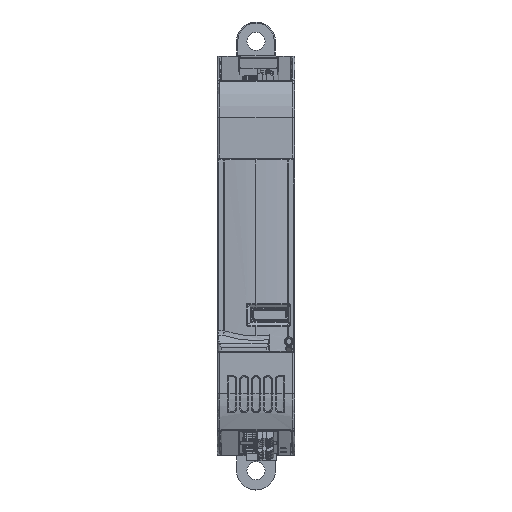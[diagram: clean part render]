
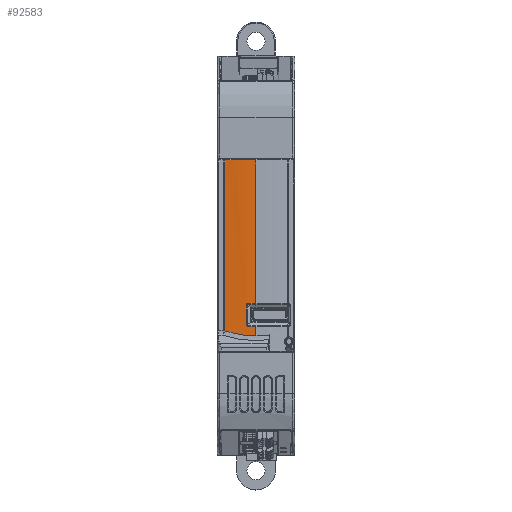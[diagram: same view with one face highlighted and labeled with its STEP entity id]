
A CAD part, top view. The second image highlights one B-rep face of the part: STEP entity #92583.
In plain terms, the highlighted cylindrical face has radius 71.119 mm (diameter 142.239 mm), a partial arc.
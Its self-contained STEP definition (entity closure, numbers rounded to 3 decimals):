
#575 = CARTESIAN_POINT ( 'NONE',  ( 1.726, -17.519, 64.468 ) ) ;
#770 = DIRECTION ( 'NONE',  ( 0., 1., 0. ) ) ;
#1697 = CARTESIAN_POINT ( 'NONE',  ( 9., -11.153, 64.841 ) ) ;
#3808 = EDGE_CURVE ( 'NONE', #57025, #21103, #43539, .T. ) ;
#5060 = CARTESIAN_POINT ( 'NONE',  ( 6.843, -16.288, 64.809 ) ) ;
#5437 = ORIENTED_EDGE ( 'NONE', *, *, #20947, .T. ) ;
#5795 = CARTESIAN_POINT ( 'NONE',  ( 6.817, -16.203, 64.808 ) ) ;
#7468 = CARTESIAN_POINT ( 'NONE',  ( 9., 22.25, -6.278 ) ) ;
#8052 = CIRCLE ( 'NONE', #87692, 71.119 ) ;
#10888 = CARTESIAN_POINT ( 'NONE',  ( 4.143, -18.326, 64.717 ) ) ;
#14928 = CARTESIAN_POINT ( 'NONE',  ( 6.812, -11.486, 64.808 ) ) ;
#15463 =( BOUNDED_CURVE ( )  B_SPLINE_CURVE ( 3, ( #575, #10888, #66640, #57053 ),
 .UNSPECIFIED., .F., .F. ) 
 B_SPLINE_CURVE_WITH_KNOTS ( ( 4, 4 ),
 ( 3.039, 3.142 ),
 .UNSPECIFIED. ) 
 CURVE ( )  GEOMETRIC_REPRESENTATION_ITEM ( )  RATIONAL_B_SPLINE_CURVE ( ( 1., 0.999, 0.999, 1. ) ) 
 REPRESENTATION_ITEM ( '' )  );
#18807 = VERTEX_POINT ( 'NONE', #46529 ) ;
#20055 = ORIENTED_EDGE ( 'NONE', *, *, #89101, .T. ) ;
#20589 = CYLINDRICAL_SURFACE ( 'NONE', #42220, 71.119 ) ;
#20947 = EDGE_CURVE ( 'NONE', #51225, #48520, #143936, .T. ) ;
#21049 = AXIS2_PLACEMENT_3D ( 'NONE', #79821, #137743, #45299 ) ;
#21103 = VERTEX_POINT ( 'NONE', #76123 ) ;
#21271 = LINE ( 'NONE', #121776, #129724 ) ;
#22159 = CARTESIAN_POINT ( 'NONE',  ( 7.138, -11.153, 64.817 ) ) ;
#27003 = CARTESIAN_POINT ( 'NONE',  ( 9., -11.153, -6.278 ) ) ;
#28524 = CARTESIAN_POINT ( 'NONE',  ( 6.965, -16.414, 64.812 ) ) ;
#30209 = DIRECTION ( 'NONE',  ( 0., 0., 1. ) ) ;
#34845 = VECTOR ( 'NONE', #770, 1000. ) ;
#37353 = CARTESIAN_POINT ( 'NONE',  ( 7.138, -16.447, 64.817 ) ) ;
#38371 = AXIS2_PLACEMENT_3D ( 'NONE', #27003, #93096, #93812 ) ;
#39492 = VECTOR ( 'NONE', #86576, 1000. ) ;
#39950 = ORIENTED_EDGE ( 'NONE', *, *, #71075, .T. ) ;
#41786 = FACE_OUTER_BOUND ( 'NONE', #44038, .T. ) ;
#42220 = AXIS2_PLACEMENT_3D ( 'NONE', #65311, #43972, #97635 ) ;
#43539 = LINE ( 'NONE', #104230, #131363 ) ;
#43972 = DIRECTION ( 'NONE',  ( 0., 1., 0. ) ) ;
#44038 = EDGE_LOOP ( 'NONE', ( #95291, #133102, #140288, #20055, #55720, #39950, #5437, #56875, #141526, #88342 ) ) ;
#44044 = CARTESIAN_POINT ( 'NONE',  ( 6.812, -37.405, 64.808 ) ) ;
#44422 = CIRCLE ( 'NONE', #21049, 71.119 ) ;
#45299 = DIRECTION ( 'NONE',  ( 0., 0., 1. ) ) ;
#46277 = CARTESIAN_POINT ( 'NONE',  ( 6.812, -16.114, 64.808 ) ) ;
#46529 = CARTESIAN_POINT ( 'NONE',  ( 7.138, -16.447, 64.817 ) ) ;
#48520 = VERTEX_POINT ( 'NONE', #1697 ) ;
#48703 = CARTESIAN_POINT ( 'NONE',  ( 6.812, -11.486, 64.808 ) ) ;
#49936 = EDGE_CURVE ( 'NONE', #139806, #53672, #123313, .T. ) ;
#51225 = VERTEX_POINT ( 'NONE', #22159 ) ;
#51507 = CARTESIAN_POINT ( 'NONE',  ( 9., 22.25, 64.841 ) ) ;
#53672 = VERTEX_POINT ( 'NONE', #48703 ) ;
#55720 = ORIENTED_EDGE ( 'NONE', *, *, #49936, .T. ) ;
#56441 = CARTESIAN_POINT ( 'NONE',  ( 7.138, -11.153, 64.817 ) ) ;
#56875 = ORIENTED_EDGE ( 'NONE', *, *, #85984, .T. ) ;
#57025 = VERTEX_POINT ( 'NONE', #110394 ) ;
#57053 = CARTESIAN_POINT ( 'NONE',  ( 9., -18.731, 64.841 ) ) ;
#59646 = CARTESIAN_POINT ( 'NONE',  ( 6.817, -11.397, 64.808 ) ) ;
#61083 = VERTEX_POINT ( 'NONE', #119413 ) ;
#61531 = CARTESIAN_POINT ( 'NONE',  ( 6.926, -16.391, 64.811 ) ) ;
#63008 = CARTESIAN_POINT ( 'NONE',  ( 7.093, -16.447, 64.816 ) ) ;
#65311 = CARTESIAN_POINT ( 'NONE',  ( 9., -37.405, -6.278 ) ) ;
#66640 = CARTESIAN_POINT ( 'NONE',  ( 6.57, -18.731, 64.841 ) ) ;
#71075 = EDGE_CURVE ( 'NONE', #53672, #51225, #85773, .T. ) ;
#71191 = VERTEX_POINT ( 'NONE', #112945 ) ;
#71400 = CARTESIAN_POINT ( 'NONE',  ( 6.843, -11.312, 64.809 ) ) ;
#76123 = CARTESIAN_POINT ( 'NONE',  ( 9., -16.447, 64.841 ) ) ;
#76291 = CARTESIAN_POINT ( 'NONE',  ( 7.093, -11.153, 64.816 ) ) ;
#78416 = DIRECTION ( 'NONE',  ( 0., 1., 0. ) ) ;
#79821 = CARTESIAN_POINT ( 'NONE',  ( 9., -16.447, -6.278 ) ) ;
#82408 = CARTESIAN_POINT ( 'NONE',  ( 6.812, -11.441, 64.808 ) ) ;
#83599 = CARTESIAN_POINT ( 'NONE',  ( 6.812, -16.159, 64.808 ) ) ;
#85773 = B_SPLINE_CURVE_WITH_KNOTS ( 'NONE', 3,
 ( #14928, #82408, #59646, #71400, #116185, #127148, #143073, #110078, #76291, #56441 ),
 .UNSPECIFIED., .F., .F.,
 ( 4, 2, 2, 2, 4 ),
 ( 0., 0., 0., 0., 0.001 ),
 .UNSPECIFIED. ) ;
#85984 = EDGE_CURVE ( 'NONE', #48520, #107264, #21271, .T. ) ;
#86576 = DIRECTION ( 'NONE',  ( 0., -1., 0. ) ) ;
#87692 = AXIS2_PLACEMENT_3D ( 'NONE', #7468, #97025, #30209 ) ;
#88342 = ORIENTED_EDGE ( 'NONE', *, *, #138847, .T. ) ;
#89101 = EDGE_CURVE ( 'NONE', #18807, #139806, #135902, .T. ) ;
#89461 = CARTESIAN_POINT ( 'NONE',  ( 1.726, -37.405, 64.468 ) ) ;
#92583 = ADVANCED_FACE ( 'NONE', ( #41786 ), #20589, .T. ) ;
#93096 = DIRECTION ( 'NONE',  ( 0., 1., 0. ) ) ;
#93812 = DIRECTION ( 'NONE',  ( 0., 0., -1. ) ) ;
#95291 = ORIENTED_EDGE ( 'NONE', *, *, #116231, .T. ) ;
#97025 = DIRECTION ( 'NONE',  ( 0., -1., 0. ) ) ;
#97635 = DIRECTION ( 'NONE',  ( 0., 0., 1. ) ) ;
#100112 = DIRECTION ( 'NONE',  ( 0., 1., 0. ) ) ;
#104230 = CARTESIAN_POINT ( 'NONE',  ( 9., -37.405, 64.841 ) ) ;
#104902 = CARTESIAN_POINT ( 'NONE',  ( 6.865, -16.328, 64.809 ) ) ;
#107264 = VERTEX_POINT ( 'NONE', #51507 ) ;
#109326 = LINE ( 'NONE', #89461, #39492 ) ;
#110078 = CARTESIAN_POINT ( 'NONE',  ( 7.049, -11.158, 64.815 ) ) ;
#110394 = CARTESIAN_POINT ( 'NONE',  ( 9., -18.731, 64.841 ) ) ;
#112945 = CARTESIAN_POINT ( 'NONE',  ( 1.726, -17.519, 64.468 ) ) ;
#116185 = CARTESIAN_POINT ( 'NONE',  ( 6.865, -11.272, 64.809 ) ) ;
#116231 = EDGE_CURVE ( 'NONE', #71191, #57025, #15463, .T. ) ;
#118810 = CARTESIAN_POINT ( 'NONE',  ( 6.812, -16.114, 64.808 ) ) ;
#119413 = CARTESIAN_POINT ( 'NONE',  ( 1.726, 22.25, 64.468 ) ) ;
#121776 = CARTESIAN_POINT ( 'NONE',  ( 9., -37.405, 64.841 ) ) ;
#123313 = LINE ( 'NONE', #44044, #34845 ) ;
#127148 = CARTESIAN_POINT ( 'NONE',  ( 6.926, -11.209, 64.811 ) ) ;
#129724 = VECTOR ( 'NONE', #78416, 1000. ) ;
#131363 = VECTOR ( 'NONE', #100112, 1000. ) ;
#131693 = EDGE_CURVE ( 'NONE', #107264, #61083, #8052, .T. ) ;
#133102 = ORIENTED_EDGE ( 'NONE', *, *, #3808, .T. ) ;
#135902 = B_SPLINE_CURVE_WITH_KNOTS ( 'NONE', 3,
 ( #37353, #63008, #140808, #28524, #61531, #104902, #5060, #5795, #83599, #118810 ),
 .UNSPECIFIED., .F., .F.,
 ( 4, 2, 2, 2, 4 ),
 ( 0., 0., 0., 0., 0.001 ),
 .UNSPECIFIED. ) ;
#137743 = DIRECTION ( 'NONE',  ( 0., -1., 0. ) ) ;
#138847 = EDGE_CURVE ( 'NONE', #61083, #71191, #109326, .T. ) ;
#139806 = VERTEX_POINT ( 'NONE', #46277 ) ;
#140288 = ORIENTED_EDGE ( 'NONE', *, *, #142724, .T. ) ;
#140808 = CARTESIAN_POINT ( 'NONE',  ( 7.049, -16.442, 64.815 ) ) ;
#141526 = ORIENTED_EDGE ( 'NONE', *, *, #131693, .T. ) ;
#142724 = EDGE_CURVE ( 'NONE', #21103, #18807, #44422, .T. ) ;
#143073 = CARTESIAN_POINT ( 'NONE',  ( 6.965, -11.186, 64.812 ) ) ;
#143936 = CIRCLE ( 'NONE', #38371, 71.119 ) ;
